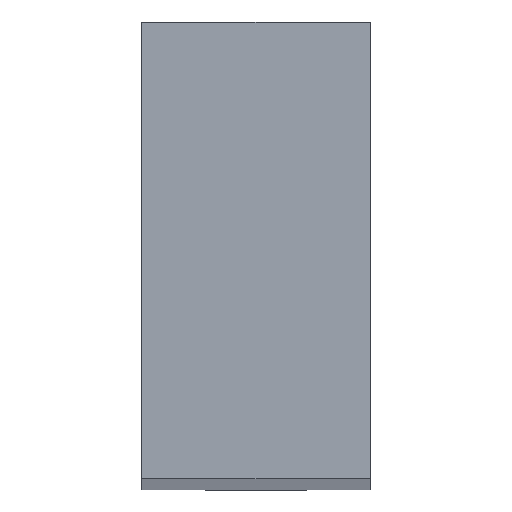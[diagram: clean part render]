
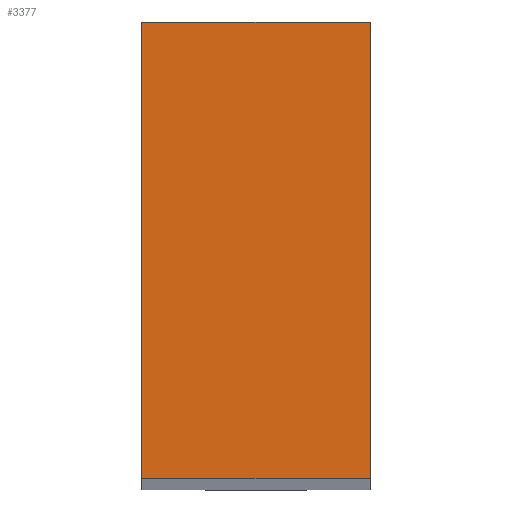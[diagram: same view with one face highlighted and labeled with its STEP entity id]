
A CAD part, top view. The second image highlights one B-rep face of the part: STEP entity #3377.
In plain terms, the highlighted planar face has unit normal (0, 0, 1).
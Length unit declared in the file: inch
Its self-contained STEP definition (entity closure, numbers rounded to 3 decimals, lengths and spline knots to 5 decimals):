
#18 = EDGE_LOOP ( 'NONE', ( #2809, #771, #3503, #5259 ) ) ;
#662 = CARTESIAN_POINT ( 'NONE',  ( 16.67323, 0.6811, 15.41732 ) ) ;
#700 = EDGE_CURVE ( 'NONE', #6525, #7202, #5140, .T. ) ;
#771 = ORIENTED_EDGE ( 'NONE', *, *, #1637, .F. ) ;
#1377 = DIRECTION ( 'NONE',  ( -1., 0., 0. ) ) ;
#1579 = VERTEX_POINT ( 'NONE', #662 ) ;
#1637 = EDGE_CURVE ( 'NONE', #1579, #3230, #1997, .T. ) ;
#1997 = LINE ( 'NONE', #4327, #3031 ) ;
#2014 = DIRECTION ( 'NONE',  ( 0., 0., -1. ) ) ;
#2064 = DIRECTION ( 'NONE',  ( 0., -1., 0. ) ) ;
#2140 = PLANE ( 'NONE',  #6030 ) ;
#2167 = VECTOR ( 'NONE', #2727, 39.37008 ) ;
#2727 = DIRECTION ( 'NONE',  ( 1., 0., 0. ) ) ;
#2784 = FACE_OUTER_BOUND ( 'NONE', #18, .T. ) ;
#2809 = ORIENTED_EDGE ( 'NONE', *, *, #5783, .F. ) ;
#3031 = VECTOR ( 'NONE', #1377, 39.37008 ) ;
#3230 = VERTEX_POINT ( 'NONE', #6672 ) ;
#3377 = ADVANCED_FACE ( 'NONE', ( #2784 ), #2140, .F. ) ;
#3503 = ORIENTED_EDGE ( 'NONE', *, *, #3814, .F. ) ;
#3814 = EDGE_CURVE ( 'NONE', #7202, #1579, #6258, .T. ) ;
#3917 = VECTOR ( 'NONE', #2064, 39.37008 ) ;
#3939 = LINE ( 'NONE', #6348, #4041 ) ;
#4041 = VECTOR ( 'NONE', #6422, 39.37008 ) ;
#4327 = CARTESIAN_POINT ( 'NONE',  ( 16.54823, 0.6811, 15.41732 ) ) ;
#4498 = CARTESIAN_POINT ( 'NONE',  ( 16.30512, 0.27559, 15.41732 ) ) ;
#4509 = CARTESIAN_POINT ( 'NONE',  ( 16.30512, 1.6811, 15.41732 ) ) ;
#5140 = LINE ( 'NONE', #4509, #2167 ) ;
#5259 = ORIENTED_EDGE ( 'NONE', *, *, #700, .F. ) ;
#5783 = EDGE_CURVE ( 'NONE', #3230, #6525, #3939, .T. ) ;
#6030 = AXIS2_PLACEMENT_3D ( 'NONE', #4498, #2014, #6863 ) ;
#6258 = LINE ( 'NONE', #6871, #3917 ) ;
#6348 = CARTESIAN_POINT ( 'NONE',  ( 16.17323, 1.0561, 15.41732 ) ) ;
#6422 = DIRECTION ( 'NONE',  ( 0., 1., 0. ) ) ;
#6445 = CARTESIAN_POINT ( 'NONE',  ( 16.67323, 1.6811, 15.41732 ) ) ;
#6525 = VERTEX_POINT ( 'NONE', #7592 ) ;
#6672 = CARTESIAN_POINT ( 'NONE',  ( 16.17323, 0.6811, 15.41732 ) ) ;
#6863 = DIRECTION ( 'NONE',  ( -1., 0., 0. ) ) ;
#6871 = CARTESIAN_POINT ( 'NONE',  ( 16.67323, 1.3061, 15.41732 ) ) ;
#7202 = VERTEX_POINT ( 'NONE', #6445 ) ;
#7592 = CARTESIAN_POINT ( 'NONE',  ( 16.17323, 1.6811, 15.41732 ) ) ;
